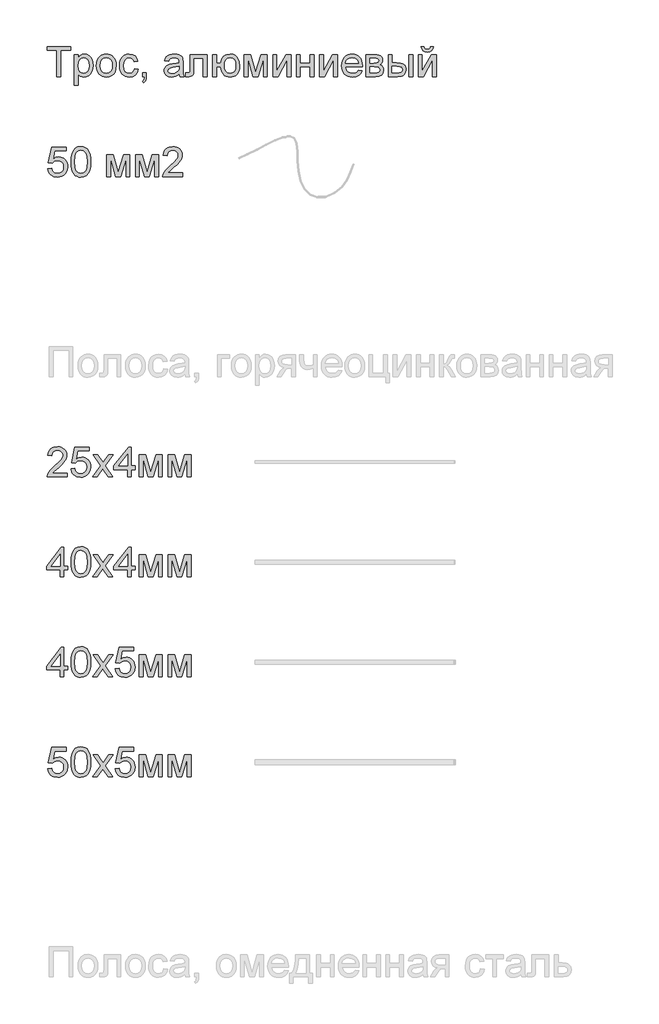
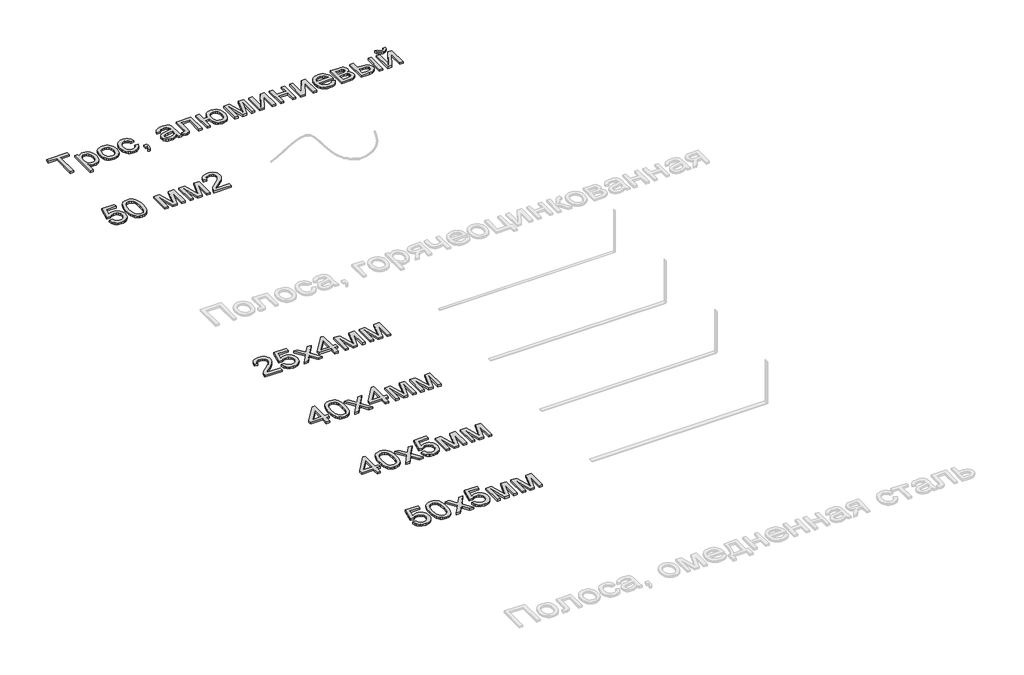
# One storey, part 86 of 124: 6 proxies.
"""IFC4 building model written with IfcOpenShell, lengths in millimetres."""

import ifcopenshell
import ifcopenshell.guid

model = None  # the IFC model being written
_history = None  # IfcOwnerHistory: only IFC2X3 demands one
_inside = {}  # id of a spatial element -> (the spatial element, [elements in it])
_under = {}  # id of a project, library or spatial element -> (it, [spatial elements below it])
_declared = {}  # id of a project -> (the project, [libraries it declares])
_typed = {}  # id of a type object -> (the type object, [elements of that type])
_made_of = {}  # id of a material, layer set ... -> (it, [elements and type objects made of it])


def new_model(schema):
    """Start an empty IFC model of exactly this schema.

    Asked for "IFC4X3", IfcOpenShell would pick the latest addendum, in which some entities
    have other attributes; the version numbers below select the first issue.
    IFC2X3 requires an IfcOwnerHistory on every rooted entity: one is made here for all.
    """
    global model, _history
    if schema == "IFC4X3":
        model = ifcopenshell.file(schema_version=(4, 3, 0, 0))
    else:
        model = ifcopenshell.file(schema=schema)
    _inside.clear()
    _under.clear()
    _declared.clear()
    _typed.clear()
    _made_of.clear()
    _history = None
    if model.schema == "IFC2X3":
        org = make("IfcOrganization", Name="unknown")
        user = make(
            "IfcPersonAndOrganization",
            ThePerson=make("IfcPerson", FamilyName="unknown"),
            TheOrganization=org,
        )
        app = make(
            "IfcApplication",
            ApplicationDeveloper=org,
            Version="unknown",
            ApplicationFullName="unknown",
            ApplicationIdentifier="unknown",
        )
        _history = make(
            "IfcOwnerHistory",
            OwningUser=user,
            OwningApplication=app,
            ChangeAction="ADDED",
            CreationDate=0,
        )
    return model


def make(cls, **values):
    """One entity of the class cls with the attributes given. An attribute that is None is left unset."""
    return model.create_entity(
        cls, **{name: value for name, value in values.items() if value is not None}
    )


def rooted(cls, **values):
    """An entity with a GlobalId (a new one), such as an element, a storey or a relation."""
    return make(cls, GlobalId=ifcopenshell.guid.new(), OwnerHistory=_history, **values)


def si_unit(unit_type, name, prefix=None):
    """IfcSIUnit, for example si_unit("LENGTHUNIT", "METRE", prefix="MILLI")."""
    return make("IfcSIUnit", UnitType=unit_type, Prefix=prefix, Name=name)


def assignment(units):
    """IfcUnitAssignment: the units of a project."""
    return None if units is None else make("IfcUnitAssignment", Units=units)


def point(xyz):
    """IfcCartesianPoint."""
    return None if xyz is None else make("IfcCartesianPoint", Coordinates=xyz)


def direction(xyz):
    """IfcDirection."""
    return None if xyz is None else make("IfcDirection", DirectionRatios=xyz)


def frame(location, z_axis=None, x_axis=None):
    """IfcAxis2Placement3D, a coordinate frame: its origin and axes. An axis left out is left unset."""
    return make(
        "IfcAxis2Placement3D",
        Location=point(location),
        Axis=direction(z_axis),
        RefDirection=direction(x_axis),
    )


def origin():
    """The frame at (0, 0, 0) with its axes left unset."""
    return frame((0.0, 0.0, 0.0))


def origin_with_axes():
    """The frame at (0, 0, 0) with the z axis (0, 0, 1) and the x axis (1, 0, 0) written out."""
    return frame((0.0, 0.0, 0.0), z_axis=(0.0, 0.0, 1.0), x_axis=(1.0, 0.0, 0.0))


def place(relative_to, where):
    """IfcLocalPlacement: puts the frame where relative to a parent placement (None: the world)."""
    return make(
        "IfcLocalPlacement", PlacementRelTo=relative_to, RelativePlacement=where
    )


def context(
    kind, dimensions, precision=None, world=None, true_north=None, identifier=None
):
    """IfcGeometricRepresentationContext, for example the 3D "Model" context."""
    return make(
        "IfcGeometricRepresentationContext",
        ContextIdentifier=identifier,
        ContextType=kind,
        CoordinateSpaceDimension=dimensions,
        Precision=precision,
        WorldCoordinateSystem=world,
        TrueNorth=true_north,
    )


def project(units=None, contexts=None):
    """IfcProject with its units and contexts."""
    return rooted(
        "IfcProject",
        Name="project",
        RepresentationContexts=contexts,
        UnitsInContext=assignment(units),
    )


def spatial(cls, under=None, at=None, **own):
    """A site, building, storey or space (cls), placed at a placement, below another one or the project."""
    s = rooted(cls, ObjectPlacement=at, **own)
    if under is not None:
        _under.setdefault(under.id(), (under, []))[1].append(s)
    return s


def polyline(points):
    """IfcPolyline through the points."""
    return make("IfcPolyline", Points=[point(p) for p in points])


def outline(outer, holes=None, kind="AREA"):
    """IfcArbitraryClosedProfileDef: a profile drawn as a closed curve; with holes, ...WithVoids."""
    if holes is None:
        return make("IfcArbitraryClosedProfileDef", ProfileType=kind, OuterCurve=outer)
    return make(
        "IfcArbitraryProfileDefWithVoids",
        ProfileType=kind,
        OuterCurve=outer,
        InnerCurves=holes,
    )


def extrude(swept, where, along, depth):
    """IfcExtrudedAreaSolid: the profile swept, set in the frame where, extruded along a direction by depth."""
    return make(
        "IfcExtrudedAreaSolid",
        SweptArea=swept,
        Position=where,
        ExtrudedDirection=direction(along),
        Depth=depth,
    )


def shape(context_of_items, identifier, shape_type, items):
    """IfcShapeRepresentation: the items that make up one representation, for example the "Body"."""
    return make(
        "IfcShapeRepresentation",
        ContextOfItems=context_of_items,
        RepresentationIdentifier=identifier,
        RepresentationType=shape_type,
        Items=items,
    )


def made_of(thing, what):
    """Note that an element or type object is made of a material, layer set ...; save() writes the relation."""
    if what is not None:
        _made_of.setdefault(what.id(), (what, []))[1].append(thing)
    return thing


def element(
    cls,
    number,
    at=None,
    inside=None,
    cuts=None,
    type_object=None,
    material=None,
    context=None,
    identifier="Body",
    shape_type=None,
    held_by="IfcProductDefinitionShape",
    body=None,
    shapes=None,
    **own,
):
    """One element of the class cls, such as IfcWall. Its Tag is "e" and its number.

    at: its placement. inside: the storey or other place that contains it. cuts: it is an
    opening in that element (IfcRelVoidsElement). A single representation is given by context,
    identifier, shape_type and body (its items); several are given by shapes. held_by: the class
    of the entity that holds the representations. save() writes the other relations.
    """
    e = rooted(cls, Tag="e%d" % number, ObjectPlacement=at, **own)
    if body is not None:
        shapes = [shape(context, identifier, shape_type, body)]
    if shapes is not None:
        e.Representation = make(held_by, Representations=shapes)
    if inside is not None:
        _inside.setdefault(inside.id(), (inside, []))[1].append(e)
    if cuts is not None:
        rooted(
            "IfcRelVoidsElement", RelatingBuildingElement=cuts, RelatedOpeningElement=e
        )
    if type_object is not None:
        _typed.setdefault(type_object.id(), (type_object, []))[1].append(e)
    return made_of(e, material)


def aggregate(whole, parts):
    """IfcRelAggregates: a whole, such as a stair, and the parts it consists of."""
    return rooted("IfcRelAggregates", RelatingObject=whole, RelatedObjects=parts)


def save(model, path):
    """Write the relations noted so far, then the file.

    IfcRelAggregates (storeys below a building ...), IfcRelContainedInSpatialStructure (elements
    in a storey), IfcRelDefinesByType, IfcRelAssociatesMaterial and IfcRelDeclares: one each for
    every whole, place, type object, material and project.
    """
    for whole, parts in _under.values():
        aggregate(whole, parts)
    for where, things in _inside.values():
        rooted(
            "IfcRelContainedInSpatialStructure",
            RelatedElements=things,
            RelatingStructure=where,
        )
    for kind, things in _typed.values():
        rooted("IfcRelDefinesByType", RelatedObjects=things, RelatingType=kind)
    for what, things in _made_of.values():
        rooted("IfcRelAssociatesMaterial", RelatedObjects=things, RelatingMaterial=what)
    for by, libraries in _declared.values():
        rooted("IfcRelDeclares", RelatingContext=by, RelatedDefinitions=libraries)
    model.write(path)


model = new_model("IFC4")

# Units and contexts
model_context = context("Model", 3, world=origin())
ifc_project = project(units=[si_unit("LENGTHUNIT", "METRE", prefix="MILLI")], contexts=[model_context])

# Site, building, storey
site = spatial("IfcSite", under=ifc_project)
building = spatial("IfcBuilding", under=site)
storey = spatial("IfcBuildingStorey", under=building, Name="Этаж 01", Elevation=0.0)

# Proxies
placement = place(None, origin())
element("IfcBuildingElementProxy", 1, Name="300", ObjectType="300", at=placement, inside=storey, context=model_context, shape_type="SweptSolid", body=[
    extrude(outline(polyline([(1478.7598701, -20181.842987), (1478.7598701, -20219.5141033), (1280.9865095, -20219.5141033), (1285.0332115, -20193.5416344), (1294.3222319, -20173.2437453), (1307.9154716, -20153.5528615), (1327.5787642, -20132.9422727), (1355.0779434, -20109.8852687), (1395.7289038, -20073.7776509), (1420.1194801, -20047.1246003), (1432.3147683, -20025.493139), (1436.3798643, -20004.4502889), (1432.5446945, -19985.5871396), (1421.0391851, -19969.9061695), (1403.3532582, -19959.3387592), (1380.9768358, -19955.8162891), (1357.4783734, -19959.2559858), (1339.2222294, -19969.5750757), (1327.4408085, -19985.9642186), (1323.3665154, -20007.614074), (1285.6953991, -20002.9051845), (1294.8280696, -19966.4664729), (1303.3744282, -19951.9305355), (1314.5741357, -19939.8502105), (1328.1696747, -19930.3542565), (1343.9035278, -19923.5714322), (1381.7861762, -19918.1451728), (1401.976, -19919.653489), (1419.9447362, -19924.1784375), (1435.6923848, -19931.7200184), (1449.2189459, -19942.2782317), (1460.0829611, -19955.0713281), (1467.8429719, -19969.3175583), (1472.4989784, -19985.0169225), (1474.0509806, -20002.1694205), (1472.3771175, -20020.1864412), (1467.3555283, -20037.8907622), (1458.443587, -20055.8985859), (1445.0986676, -20074.8261146), (1423.8258912, -20097.4232661), (1391.1303789, -20126.4399585), (1347.7938799, -20162.676335), (1330.7977317, -20181.842987), (1478.7598701, -20181.842987)])), origin_with_axes(), (0.0, 0.0, 1.0), 20.0),
    extrude(outline(polyline([(1516.4309865, -20139.4629811), (1554.1021028, -20134.7540916), (1561.0182843, -20157.3696372), (1573.0848137, -20173.5656421), (1590.2465088, -20183.3053179), (1612.4481872, -20186.5518765), (1639.4507256, -20182.036125), (1659.6842354, -20168.4888705), (1672.3209819, -20147.4736116), (1676.5332308, -20120.5538466), (1672.5876964, -20095.2067771), (1660.7510932, -20075.8193959), (1640.9314507, -20063.5137432), (1613.0367984, -20059.411859), (1594.7622603, -20061.0489338), (1579.964207, -20065.9601585), (1558.8109923, -20082.9563067), (1521.139876, -20078.2474171), (1554.1021028, -19922.8540624), (1700.0776784, -19922.8540624), (1700.0776784, -19960.5251787), (1584.562732, -19960.5251787), (1568.4495006, -20043.5193568), (1595.3600685, -20027.1853962), (1623.5582234, -20021.7407427), (1641.9040387, -20023.4284013), (1658.7553333, -20028.4913773), (1674.1121074, -20036.9296705), (1687.9743608, -20048.7432811), (1699.4499798, -20063.2102406), (1707.6468505, -20079.6085805), (1712.5649729, -20097.9383009), (1714.2043471, -20118.1994018), (1708.299841, -20155.8705181), (1700.9192085, -20172.6643312), (1690.586323, -20188.0969809), (1674.9329441, -20203.9021111), (1656.667603, -20215.1914898), (1635.7902998, -20221.9651171), (1612.3010344, -20224.2229928), (1575.3013027, -20218.4196543), (1559.622632, -20211.1654812), (1545.8247579, -20201.0096389), (1534.3445404, -20188.4579651), (1525.6188393, -20174.0162975), (1516.4309865, -20139.4629811)])), origin_with_axes(), (0.0, 0.0, 1.0), 20.0),
    extrude(outline(polyline([(1733.0399052, -20219.5141033), (1813.5324858, -20108.2665879), (1737.7487948, -19998.196295), (1783.0718566, -19998.196295), (1819.6393269, -20051.1713023), (1836.7090515, -20076.1872779), (1851.4979077, -20055.733039), (1893.1421495, -19998.196295), (1938.4652113, -19998.196295), (1858.8555476, -20108.2665879), (1935.5221554, -20219.5141033), (1890.1990936, -20219.5141033), (1844.0666914, -20152.6331565), (1835.6054055, -20140.4194743), (1778.362967, -20219.5141033), (1733.0399052, -20219.5141033)])), origin_with_axes(), (0.0, 0.0, 1.0), 20.0),
    extrude(outline(polyline([(2081.497731, -20219.5141033), (2081.497731, -20148.8807602), (1944.9399344, -20148.8807602), (1944.9399344, -20111.2096439), (2090.9155101, -19922.8540624), (2119.1688474, -19922.8540624), (2119.1688474, -20111.2096439), (2156.8399637, -20111.2096439), (2156.8399637, -20148.8807602), (2119.1688474, -20148.8807602), (2119.1688474, -20219.5141033), (2081.497731, -20219.5141033)]), holes=[polyline([(2081.497731, -20111.2096439), (2081.497731, -19994.8117806), (1991.2930658, -20111.2096439), (2081.497731, -20111.2096439)])]), origin_with_axes(), (0.0, 0.0, 1.0), 20.0),
    extrude(outline(polyline([(2199.2199695, -19998.196295), (2264.0407771, -19998.196295), (2313.999152, -20175.3682638), (2367.8570761, -19998.196295), (2429.9555569, -19998.196295), (2429.9555569, -20219.5141033), (2392.2844406, -20219.5141033), (2392.2844406, -20041.3120648), (2338.1322109, -20219.5141033), (2288.6888707, -20219.5141033), (2236.8910858, -20032.7772025), (2236.8910858, -20219.5141033), (2199.2199695, -20219.5141033), (2199.2199695, -19998.196295)])), origin_with_axes(), (0.0, 0.0, 1.0), 20.0),
    extrude(outline(polyline([(2486.4622313, -19998.196295), (2551.2830389, -19998.196295), (2601.2414138, -20175.3682638), (2655.0993379, -19998.196295), (2717.1978187, -19998.196295), (2717.1978187, -20219.5141033), (2679.5267024, -20219.5141033), (2679.5267024, -20041.3120648), (2625.3744727, -20219.5141033), (2575.9311326, -20219.5141033), (2524.1333476, -20032.7772025), (2524.1333476, -20219.5141033), (2486.4622313, -20219.5141033), (2486.4622313, -19998.196295)])), origin_with_axes(), (0.0, 0.0, 1.0), 20.0),
])
element("IfcBuildingElementProxy", 2, Name="300", ObjectType="300", at=placement, inside=storey, context=model_context, shape_type="SweptSolid", body=[
    extrude(outline(polyline([(1408.1265271, -21219.5141033), (1408.1265271, -21148.8807602), (1271.5687305, -21148.8807602), (1271.5687305, -21111.2096439), (1417.5443062, -20922.8540624), (1445.7976434, -20922.8540624), (1445.7976434, -21111.2096439), (1483.4687597, -21111.2096439), (1483.4687597, -21148.8807602), (1445.7976434, -21148.8807602), (1445.7976434, -21219.5141033), (1408.1265271, -21219.5141033)]), holes=[polyline([(1408.1265271, -21111.2096439), (1408.1265271, -20994.8117806), (1317.9218619, -21111.2096439), (1408.1265271, -21111.2096439)])]), origin_with_axes(), (0.0, 0.0, 1.0), 20.0),
    extrude(outline(polyline([(1516.4309865, -21071.2576592), (1519.1992985, -21023.0191326), (1527.5042345, -20984.5478729), (1541.2630211, -20955.2552691), (1560.3928849, -20934.5527098), (1585.0317815, -20922.2470571), (1615.3176668, -20918.1451728), (1638.5310207, -20920.573194), (1659.3163534, -20927.8572575), (1676.6987777, -20939.7122548), (1689.7034062, -20955.8530773), (1699.5258555, -20976.1417694), (1707.361742, -21000.4403751), (1712.4936958, -21031.2964775), (1714.2043471, -21071.2576592), (1711.4636262, -21119.2202743), (1703.2414636, -21157.5995635), (1689.5654504, -21186.9197585), (1670.4631778, -21207.7050912), (1645.7690989, -21220.0935174), (1615.3176668, -21224.2229928), (1594.5691222, -21222.4295681), (1576.1750225, -21217.0492939), (1560.1353675, -21208.0821703), (1546.4501573, -21195.5281972), (1533.31677, -21172.8344766), (1523.9357792, -21144.5581467), (1518.3071846, -21110.6992076), (1516.4309865, -21071.2576592)]), holes=[polyline([(1554.1021028, -21071.1840828), (1558.5166867, -21130.4406752), (1564.0349166, -21150.7086739), (1571.7604385, -21164.7364742), (1591.4789135, -21181.0980259), (1615.3176668, -21186.5518765), (1639.15642, -21181.0796318), (1658.874895, -21164.6628978), (1666.6004169, -21150.6121048), (1672.1186468, -21130.3487047), (1676.5332308, -21071.1840828), (1672.2657996, -21013.2610627), (1666.9315107, -20993.0597426), (1659.4635062, -20978.6985492), (1639.7818194, -20961.5368541), (1614.8762084, -20955.8162891), (1591.2949725, -20960.8562725), (1572.3490497, -20975.9762225), (1564.3660104, -20991.6112072), (1558.6638395, -21012.6908456), (1554.1021028, -21071.1840828)])]), origin_with_axes(), (0.0, 0.0, 1.0), 20.0),
    extrude(outline(polyline([(1733.0399052, -21219.5141033), (1813.5324858, -21108.2665879), (1737.7487948, -20998.196295), (1783.0718566, -20998.196295), (1819.6393269, -21051.1713023), (1836.7090515, -21076.1872779), (1851.4979077, -21055.733039), (1893.1421495, -20998.196295), (1938.4652113, -20998.196295), (1858.8555476, -21108.2665879), (1935.5221554, -21219.5141033), (1890.1990936, -21219.5141033), (1844.0666914, -21152.6331565), (1835.6054055, -21140.4194743), (1778.362967, -21219.5141033), (1733.0399052, -21219.5141033)])), origin_with_axes(), (0.0, 0.0, 1.0), 20.0),
    extrude(outline(polyline([(2081.497731, -21219.5141033), (2081.497731, -21148.8807602), (1944.9399344, -21148.8807602), (1944.9399344, -21111.2096439), (2090.9155101, -20922.8540624), (2119.1688474, -20922.8540624), (2119.1688474, -21111.2096439), (2156.8399637, -21111.2096439), (2156.8399637, -21148.8807602), (2119.1688474, -21148.8807602), (2119.1688474, -21219.5141033), (2081.497731, -21219.5141033)]), holes=[polyline([(2081.497731, -21111.2096439), (2081.497731, -20994.8117806), (1991.2930658, -21111.2096439), (2081.497731, -21111.2096439)])]), origin_with_axes(), (0.0, 0.0, 1.0), 20.0),
    extrude(outline(polyline([(2199.2199695, -20998.196295), (2264.0407771, -20998.196295), (2313.999152, -21175.3682638), (2367.8570761, -20998.196295), (2429.9555569, -20998.196295), (2429.9555569, -21219.5141033), (2392.2844406, -21219.5141033), (2392.2844406, -21041.3120648), (2338.1322109, -21219.5141033), (2288.6888707, -21219.5141033), (2236.8910858, -21032.7772025), (2236.8910858, -21219.5141033), (2199.2199695, -21219.5141033), (2199.2199695, -20998.196295)])), origin_with_axes(), (0.0, 0.0, 1.0), 20.0),
    extrude(outline(polyline([(2486.4622313, -20998.196295), (2551.2830389, -20998.196295), (2601.2414138, -21175.3682638), (2655.0993379, -20998.196295), (2717.1978187, -20998.196295), (2717.1978187, -21219.5141033), (2679.5267024, -21219.5141033), (2679.5267024, -21041.3120648), (2625.3744727, -21219.5141033), (2575.9311326, -21219.5141033), (2524.1333476, -21032.7772025), (2524.1333476, -21219.5141033), (2486.4622313, -21219.5141033), (2486.4622313, -20998.196295)])), origin_with_axes(), (0.0, 0.0, 1.0), 20.0),
])
element("IfcBuildingElementProxy", 3, Name="300", ObjectType="300", at=placement, inside=storey, context=model_context, shape_type="SweptSolid", body=[
    extrude(outline(polyline([(1408.1265271, -22219.5141033), (1408.1265271, -22148.8807602), (1271.5687305, -22148.8807602), (1271.5687305, -22111.2096439), (1417.5443062, -21922.8540624), (1445.7976434, -21922.8540624), (1445.7976434, -22111.2096439), (1483.4687597, -22111.2096439), (1483.4687597, -22148.8807602), (1445.7976434, -22148.8807602), (1445.7976434, -22219.5141033), (1408.1265271, -22219.5141033)]), holes=[polyline([(1408.1265271, -22111.2096439), (1408.1265271, -21994.8117806), (1317.9218619, -22111.2096439), (1408.1265271, -22111.2096439)])]), origin_with_axes(), (0.0, 0.0, 1.0), 20.0),
    extrude(outline(polyline([(1516.4309865, -22071.2576592), (1519.1992985, -22023.0191326), (1527.5042345, -21984.5478729), (1541.2630211, -21955.2552691), (1560.3928849, -21934.5527098), (1585.0317815, -21922.2470571), (1615.3176668, -21918.1451728), (1638.5310207, -21920.573194), (1659.3163534, -21927.8572575), (1676.6987777, -21939.7122548), (1689.7034062, -21955.8530773), (1699.5258555, -21976.1417694), (1707.361742, -22000.4403751), (1712.4936958, -22031.2964775), (1714.2043471, -22071.2576592), (1711.4636262, -22119.2202743), (1703.2414636, -22157.5995635), (1689.5654504, -22186.9197585), (1670.4631778, -22207.7050912), (1645.7690989, -22220.0935174), (1615.3176668, -22224.2229928), (1594.5691222, -22222.4295681), (1576.1750225, -22217.0492939), (1560.1353675, -22208.0821703), (1546.4501573, -22195.5281972), (1533.31677, -22172.8344766), (1523.9357792, -22144.5581467), (1518.3071846, -22110.6992076), (1516.4309865, -22071.2576592)]), holes=[polyline([(1554.1021028, -22071.1840828), (1558.5166867, -22130.4406752), (1564.0349166, -22150.7086739), (1571.7604385, -22164.7364742), (1591.4789135, -22181.0980259), (1615.3176668, -22186.5518765), (1639.15642, -22181.0796318), (1658.874895, -22164.6628978), (1666.6004169, -22150.6121048), (1672.1186468, -22130.3487047), (1676.5332308, -22071.1840828), (1672.2657996, -22013.2610627), (1666.9315107, -21993.0597426), (1659.4635062, -21978.6985492), (1639.7818194, -21961.5368541), (1614.8762084, -21955.8162891), (1591.2949725, -21960.8562725), (1572.3490497, -21975.9762225), (1564.3660104, -21991.6112072), (1558.6638395, -22012.6908456), (1554.1021028, -22071.1840828)])]), origin_with_axes(), (0.0, 0.0, 1.0), 20.0),
    extrude(outline(polyline([(1733.0399052, -22219.5141033), (1813.5324858, -22108.2665879), (1737.7487948, -21998.196295), (1783.0718566, -21998.196295), (1819.6393269, -22051.1713023), (1836.7090515, -22076.1872779), (1851.4979077, -22055.733039), (1893.1421495, -21998.196295), (1938.4652113, -21998.196295), (1858.8555476, -22108.2665879), (1935.5221554, -22219.5141033), (1890.1990936, -22219.5141033), (1844.0666914, -22152.6331565), (1835.6054055, -22140.4194743), (1778.362967, -22219.5141033), (1733.0399052, -22219.5141033)])), origin_with_axes(), (0.0, 0.0, 1.0), 20.0),
    extrude(outline(polyline([(1959.0666031, -22139.4629811), (1996.7377194, -22134.7540916), (2003.6539009, -22157.3696372), (2015.7204303, -22173.5656421), (2032.8821254, -22183.3053179), (2055.0838038, -22186.5518765), (2082.0863422, -22182.036125), (2102.319852, -22168.4888705), (2114.9565985, -22147.4736116), (2119.1688474, -22120.5538466), (2115.223313, -22095.2067771), (2103.3867098, -22075.8193959), (2083.5670673, -22063.5137432), (2055.672415, -22059.411859), (2037.3978769, -22061.0489338), (2022.5998236, -22065.9601585), (2001.4466089, -22082.9563067), (1963.7754926, -22078.2474171), (1996.7377194, -21922.8540624), (2142.713295, -21922.8540624), (2142.713295, -21960.5251787), (2027.1983486, -21960.5251787), (2011.0851172, -22043.5193568), (2037.9956851, -22027.1853962), (2066.19384, -22021.7407427), (2084.5396553, -22023.4284013), (2101.3909499, -22028.4913773), (2116.747724, -22036.9296705), (2130.6099774, -22048.7432811), (2142.0855964, -22063.2102406), (2150.2824671, -22079.6085805), (2155.2005895, -22097.9383009), (2156.8399637, -22118.1994018), (2150.9354576, -22155.8705181), (2143.5548251, -22172.6643312), (2133.2219396, -22188.0969809), (2117.5685607, -22203.9021111), (2099.3032196, -22215.1914898), (2078.4259164, -22221.9651171), (2054.936651, -22224.2229928), (2017.9369193, -22218.4196543), (2002.2582485, -22211.1654812), (1988.4603745, -22201.0096389), (1976.980157, -22188.4579651), (1968.2544559, -22174.0162975), (1959.0666031, -22139.4629811)])), origin_with_axes(), (0.0, 0.0, 1.0), 20.0),
    extrude(outline(polyline([(2199.2199695, -21998.196295), (2264.0407771, -21998.196295), (2313.999152, -22175.3682638), (2367.8570761, -21998.196295), (2429.9555569, -21998.196295), (2429.9555569, -22219.5141033), (2392.2844406, -22219.5141033), (2392.2844406, -22041.3120648), (2338.1322109, -22219.5141033), (2288.6888707, -22219.5141033), (2236.8910858, -22032.7772025), (2236.8910858, -22219.5141033), (2199.2199695, -22219.5141033), (2199.2199695, -21998.196295)])), origin_with_axes(), (0.0, 0.0, 1.0), 20.0),
    extrude(outline(polyline([(2486.4622313, -21998.196295), (2551.2830389, -21998.196295), (2601.2414138, -22175.3682638), (2655.0993379, -21998.196295), (2717.1978187, -21998.196295), (2717.1978187, -22219.5141033), (2679.5267024, -22219.5141033), (2679.5267024, -22041.3120648), (2625.3744727, -22219.5141033), (2575.9311326, -22219.5141033), (2524.1333476, -22032.7772025), (2524.1333476, -22219.5141033), (2486.4622313, -22219.5141033), (2486.4622313, -21998.196295)])), origin_with_axes(), (0.0, 0.0, 1.0), 20.0),
])
element("IfcBuildingElementProxy", 4, Name="300", ObjectType="300", at=placement, inside=storey, context=model_context, shape_type="SweptSolid", body=[
    extrude(outline(polyline([(1285.6953991, -23139.4629811), (1323.3665154, -23134.7540916), (1330.2826969, -23157.3696372), (1342.3492263, -23173.5656421), (1359.5109214, -23183.3053179), (1381.7125998, -23186.5518765), (1408.7151383, -23182.036125), (1428.948648, -23168.4888705), (1441.5853945, -23147.4736116), (1445.7976434, -23120.5538466), (1441.852109, -23095.2067771), (1430.0155058, -23075.8193959), (1410.1958633, -23063.5137432), (1382.301211, -23059.411859), (1364.0266729, -23061.0489338), (1349.2286196, -23065.9601585), (1328.0754049, -23082.9563067), (1290.4042886, -23078.2474171), (1323.3665154, -22922.8540624), (1469.3420911, -22922.8540624), (1469.3420911, -22960.5251787), (1353.8271446, -22960.5251787), (1337.7139132, -23043.5193568), (1364.6244811, -23027.1853962), (1392.8226361, -23021.7407427), (1411.1684513, -23023.4284013), (1428.019746, -23028.4913773), (1443.37652, -23036.9296705), (1457.2387734, -23048.7432811), (1468.7143924, -23063.2102406), (1476.9112631, -23079.6085805), (1481.8293855, -23097.9383009), (1483.4687597, -23118.1994018), (1477.5642537, -23155.8705181), (1470.1836211, -23172.6643312), (1459.8507356, -23188.0969809), (1444.1973567, -23203.9021111), (1425.9320156, -23215.1914898), (1405.0547124, -23221.9651171), (1381.565447, -23224.2229928), (1344.5657154, -23218.4196543), (1328.8870446, -23211.1654812), (1315.0891705, -23201.0096389), (1303.608953, -23188.4579651), (1294.8832519, -23174.0162975), (1285.6953991, -23139.4629811)])), origin_with_axes(), (0.0, 0.0, 1.0), 20.0),
    extrude(outline(polyline([(1516.4309865, -23071.2576592), (1519.1992985, -23023.0191326), (1527.5042345, -22984.5478729), (1541.2630211, -22955.2552691), (1560.3928849, -22934.5527098), (1585.0317815, -22922.2470571), (1615.3176668, -22918.1451728), (1638.5310207, -22920.573194), (1659.3163534, -22927.8572575), (1676.6987777, -22939.7122548), (1689.7034062, -22955.8530773), (1699.5258555, -22976.1417694), (1707.361742, -23000.4403751), (1712.4936958, -23031.2964775), (1714.2043471, -23071.2576592), (1711.4636262, -23119.2202743), (1703.2414636, -23157.5995635), (1689.5654504, -23186.9197585), (1670.4631778, -23207.7050912), (1645.7690989, -23220.0935174), (1615.3176668, -23224.2229928), (1594.5691222, -23222.4295681), (1576.1750225, -23217.0492939), (1560.1353675, -23208.0821703), (1546.4501573, -23195.5281972), (1533.31677, -23172.8344766), (1523.9357792, -23144.5581467), (1518.3071846, -23110.6992076), (1516.4309865, -23071.2576592)]), holes=[polyline([(1554.1021028, -23071.1840828), (1558.5166867, -23130.4406752), (1564.0349166, -23150.7086739), (1571.7604385, -23164.7364742), (1591.4789135, -23181.0980259), (1615.3176668, -23186.5518765), (1639.15642, -23181.0796318), (1658.874895, -23164.6628978), (1666.6004169, -23150.6121048), (1672.1186468, -23130.3487047), (1676.5332308, -23071.1840828), (1672.2657996, -23013.2610627), (1666.9315107, -22993.0597426), (1659.4635062, -22978.6985492), (1639.7818194, -22961.5368541), (1614.8762084, -22955.8162891), (1591.2949725, -22960.8562725), (1572.3490497, -22975.9762225), (1564.3660104, -22991.6112072), (1558.6638395, -23012.6908456), (1554.1021028, -23071.1840828)])]), origin_with_axes(), (0.0, 0.0, 1.0), 20.0),
    extrude(outline(polyline([(1733.0399052, -23219.5141033), (1813.5324858, -23108.2665879), (1737.7487948, -22998.196295), (1783.0718566, -22998.196295), (1819.6393269, -23051.1713023), (1836.7090515, -23076.1872779), (1851.4979077, -23055.733039), (1893.1421495, -22998.196295), (1938.4652113, -22998.196295), (1858.8555476, -23108.2665879), (1935.5221554, -23219.5141033), (1890.1990936, -23219.5141033), (1844.0666914, -23152.6331565), (1835.6054055, -23140.4194743), (1778.362967, -23219.5141033), (1733.0399052, -23219.5141033)])), origin_with_axes(), (0.0, 0.0, 1.0), 20.0),
    extrude(outline(polyline([(1959.0666031, -23139.4629811), (1996.7377194, -23134.7540916), (2003.6539009, -23157.3696372), (2015.7204303, -23173.5656421), (2032.8821254, -23183.3053179), (2055.0838038, -23186.5518765), (2082.0863422, -23182.036125), (2102.319852, -23168.4888705), (2114.9565985, -23147.4736116), (2119.1688474, -23120.5538466), (2115.223313, -23095.2067771), (2103.3867098, -23075.8193959), (2083.5670673, -23063.5137432), (2055.672415, -23059.411859), (2037.3978769, -23061.0489338), (2022.5998236, -23065.9601585), (2001.4466089, -23082.9563067), (1963.7754926, -23078.2474171), (1996.7377194, -22922.8540624), (2142.713295, -22922.8540624), (2142.713295, -22960.5251787), (2027.1983486, -22960.5251787), (2011.0851172, -23043.5193568), (2037.9956851, -23027.1853962), (2066.19384, -23021.7407427), (2084.5396553, -23023.4284013), (2101.3909499, -23028.4913773), (2116.747724, -23036.9296705), (2130.6099774, -23048.7432811), (2142.0855964, -23063.2102406), (2150.2824671, -23079.6085805), (2155.2005895, -23097.9383009), (2156.8399637, -23118.1994018), (2150.9354576, -23155.8705181), (2143.5548251, -23172.6643312), (2133.2219396, -23188.0969809), (2117.5685607, -23203.9021111), (2099.3032196, -23215.1914898), (2078.4259164, -23221.9651171), (2054.936651, -23224.2229928), (2017.9369193, -23218.4196543), (2002.2582485, -23211.1654812), (1988.4603745, -23201.0096389), (1976.980157, -23188.4579651), (1968.2544559, -23174.0162975), (1959.0666031, -23139.4629811)])), origin_with_axes(), (0.0, 0.0, 1.0), 20.0),
    extrude(outline(polyline([(2199.2199695, -22998.196295), (2264.0407771, -22998.196295), (2313.999152, -23175.3682638), (2367.8570761, -22998.196295), (2429.9555569, -22998.196295), (2429.9555569, -23219.5141033), (2392.2844406, -23219.5141033), (2392.2844406, -23041.3120648), (2338.1322109, -23219.5141033), (2288.6888707, -23219.5141033), (2236.8910858, -23032.7772025), (2236.8910858, -23219.5141033), (2199.2199695, -23219.5141033), (2199.2199695, -22998.196295)])), origin_with_axes(), (0.0, 0.0, 1.0), 20.0),
    extrude(outline(polyline([(2486.4622313, -22998.196295), (2551.2830389, -22998.196295), (2601.2414138, -23175.3682638), (2655.0993379, -22998.196295), (2717.1978187, -22998.196295), (2717.1978187, -23219.5141033), (2679.5267024, -23219.5141033), (2679.5267024, -23041.3120648), (2625.3744727, -23219.5141033), (2575.9311326, -23219.5141033), (2524.1333476, -23032.7772025), (2524.1333476, -23219.5141033), (2486.4622313, -23219.5141033), (2486.4622313, -22998.196295)])), origin_with_axes(), (0.0, 0.0, 1.0), 20.0),
])
element("IfcBuildingElementProxy", 5, Name="300", ObjectType="300", at=placement, inside=storey, context=model_context, shape_type="SweptSolid", body=[
    extrude(outline(polyline([(1375.1643003, -16219.5141033), (1375.1643003, -15955.8162891), (1276.27762, -15955.8162891), (1276.27762, -15918.1451728), (1511.7220969, -15918.1451728), (1511.7220969, -15955.8162891), (1412.8354166, -15955.8162891), (1412.8354166, -16219.5141033), (1375.1643003, -16219.5141033)])), origin_with_axes(), (0.0, 0.0, 1.0), 20.0),
    extrude(outline(polyline([(1549.3932132, -16304.2741149), (1549.3932132, -15998.196295), (1587.0643295, -15998.196295), (1587.0643295, -16035.1316473), (1599.3515882, -16016.9122915), (1613.1103748, -16003.8984659), (1629.1500298, -15996.0901705), (1648.2798935, -15993.4874054), (1673.7557217, -15997.1294372), (1696.0309765, -16008.0555324), (1714.1675589, -16025.6035036), (1727.2273697, -16049.1111631), (1735.1184385, -16076.8678596), (1737.7487948, -16107.1629419), (1734.7781476, -16139.3802077), (1725.8662063, -16168.1945649), (1711.2980793, -16192.1436828), (1691.3588752, -16209.7652304), (1668.1363242, -16220.6085522), (1643.7181568, -16224.2229928), (1626.4001119, -16221.8041687), (1610.939871, -16214.5476963), (1597.7053162, -16203.5940099), (1587.0643295, -16190.0835436), (1587.0643295, -16304.2741149), (1549.3932132, -16304.2741149)]), holes=[polyline([(1587.0643295, -16110.6210327), (1591.1386226, -16144.3925998), (1603.3615019, -16168.0106239), (1621.3969167, -16181.9165634), (1642.9088164, -16186.5518765), (1664.770204, -16181.7510165), (1683.2654713, -16167.3484363), (1695.8746267, -16142.8658896), (1700.0776784, -16107.8251295), (1695.9757942, -16074.2375034), (1683.6701415, -16050.2883855), (1665.6623178, -16035.9409877), (1644.4539208, -16031.1585217), (1623.1627503, -16036.2444903), (1604.4651479, -16051.5023961), (1591.4145341, -16076.4539924), (1587.0643295, -16110.6210327)])]), origin_with_axes(), (0.0, 0.0, 1.0), 20.0),
    extrude(outline(polyline([(1770.7110215, -16108.8551991), (1772.7481681, -16080.1925932), (1778.8596077, -16055.4939157), (1789.0453405, -16034.7591668), (1803.3053663, -16017.9883463), (1817.6619612, -16007.2691847), (1833.5084781, -15999.6126406), (1850.8449171, -15995.0187142), (1869.6712782, -15993.4874054), (1890.4543117, -15995.3521073), (1909.2461839, -16000.9462129), (1926.0468947, -16010.2697222), (1940.8564443, -16023.3226352), (1952.9436671, -16039.6634936), (1961.5773977, -16058.8508389), (1966.757636, -16080.8846712), (1968.4843821, -16105.7649904), (1965.4309616, -16143.8223828), (1956.2706999, -16172.7930899), (1941.2703115, -16194.4889305), (1920.696511, -16210.7217236), (1896.2599494, -16220.8476755), (1869.6712782, -16224.2229928), (1848.5847421, -16222.3651887), (1829.618126, -16216.7917765), (1812.7714299, -16207.5027561), (1798.0446538, -16194.4981276), (1786.0861897, -16177.9986201), (1777.5444296, -16158.2249629), (1772.4193735, -16135.1771559), (1770.7110215, -16108.8551991)]), holes=[polyline([(1808.3821378, -16108.7816227), (1812.7415395, -16142.8750866), (1825.8197444, -16167.1644953), (1845.5014311, -16181.7050312), (1869.6712782, -16186.5518765), (1893.7307607, -16181.6774401), (1913.3756592, -16167.0541307), (1926.4538642, -16142.4428253), (1930.8132658, -16107.6044003), (1926.426273, -16074.5042178), (1913.2652947, -16050.5459029), (1893.592805, -16036.005367), (1869.6712782, -16031.1585217), (1845.5014311, -16035.9869729), (1825.8197444, -16050.4723265), (1812.7415395, -16074.7065529), (1808.3821378, -16108.7816227)])]), origin_with_axes(), (0.0, 0.0, 1.0), 20.0),
    extrude(outline(polyline([(2152.1310741, -16139.4629811), (2189.8021904, -16144.1718706), (2179.2991595, -16177.6767234), (2159.5622904, -16202.9962017), (2132.4493874, -16218.916295), (2099.8182544, -16224.2229928), (2078.6903316, -16222.3720865), (2059.7467081, -16216.8193676), (2042.9873839, -16207.5648362), (2028.4123591, -16194.6084922), (2016.6148434, -16178.1940574), (2008.1880465, -16158.5652537), (2003.1319683, -16135.7220811), (2001.4466089, -16109.6645395), (2004.3252855, -16076.1412927), (2012.9613153, -16047.0878121), (2027.4926542, -16023.6261379), (2048.0572577, -16006.87831), (2072.6593661, -15996.8351316), (2099.3032196, -15993.4874054), (2131.1342092, -15998.0859304), (2156.5824463, -16011.8815052), (2174.8385903, -16034.1383659), (2185.0933009, -16064.1207485), (2147.4221846, -16068.829638), (2140.5887765, -16052.3945099), (2129.9477898, -16040.613089), (2116.0878356, -16033.5221635), (2099.5975252, -16031.1585217), (2075.2529342, -16035.812229), (2055.9299324, -16049.7733507), (2043.320777, -16073.796045), (2039.1177252, -16108.6344699), (2043.2288065, -16143.9419444), (2055.5620504, -16168.0474121), (2074.5355643, -16181.9257604), (2098.5674556, -16186.5518765), (2118.0743984, -16183.6640028), (2134.0680682, -16175.0003818), (2145.7023363, -16160.3402843), (2152.1310741, -16139.4629811)])), origin_with_axes(), (0.0, 0.0, 1.0), 20.0),
    extrude(outline(polyline([(2232.1821963, -16219.5141033), (2232.1821963, -16181.842987), (2269.8533126, -16181.842987), (2269.8533126, -16219.5141033), (2268.1610554, -16241.0627911), (2263.0842839, -16258.0313482), (2254.3286924, -16271.0451737), (2241.5999753, -16280.7296673), (2232.1821963, -16266.6029986), (2240.3491766, -16259.7787876), (2246.0145593, -16250.3426145), (2250.944178, -16219.5141033), (2232.1821963, -16219.5141033)])), origin_with_axes(), (0.0, 0.0, 1.0), 20.0),
    extrude(outline(polyline([(2599.4755803, -16191.260766), (2581.4769536, -16206.6934157), (2562.9448981, -16216.7917765), (2543.4563494, -16222.3651887), (2522.5882433, -16224.2229928), (2491.1067415, -16219.7532266), (2467.8841906, -16206.3439278), (2453.5643839, -16185.9816594), (2448.791115, -16160.652984), (2450.5937368, -16145.0363933), (2456.0016021, -16130.8545424), (2464.3433264, -16118.7144366), (2474.9475249, -16109.2230811), (2501.3246639, -16096.8622461), (2533.9190087, -16091.1968633), (2572.4362536, -16085.237175), (2599.2548511, -16078.2474171), (2599.4755803, -16069.8597076), (2596.8820122, -16053.0475004), (2589.101308, -16042.0478288), (2571.7004896, -16033.8808485), (2547.4570661, -16031.1585217), (2525.0162644, -16032.9703406), (2509.3444914, -16038.405797), (2498.6575195, -16048.4581726), (2491.1711209, -16064.1207485), (2453.5000046, -16059.411859), (2460.039107, -16038.8104672), (2469.797177, -16022.6236594), (2483.6847223, -16010.2444303), (2502.6122509, -16001.0657745), (2525.7612255, -15995.3819977), (2552.3131085, -15993.4874054), (2577.7797396, -15995.1612685), (2597.9672641, -16000.1828577), (2613.1883816, -16007.7336357), (2623.7557919, -16016.9950649), (2630.7639439, -16028.445392), (2635.3072866, -16042.5628636), (2637.1466966, -16075.5250903), (2637.1466966, -16122.3932565), (2639.0596829, -16187.8394635), (2646.5644756, -16219.5141033), (2608.8933593, -16219.5141033), (2599.4755803, -16191.260766)]), holes=[polyline([(2599.4755803, -16115.9185334), (2538.7014747, -16127.4700281), (2506.2910709, -16133.5768692), (2491.6125793, -16143.5096831), (2486.4622313, -16158.0042337), (2489.2673315, -16169.2062404), (2497.6826322, -16178.3848962), (2511.5241923, -16184.5101314), (2530.6080708, -16186.5518765), (2550.8415805, -16184.2985993), (2568.7206455, -16177.5387676), (2583.2151961, -16167.5783626), (2593.2951627, -16155.7233653), (2597.764929, -16143.5096831), (2599.2548511, -16126.5871113), (2599.4755803, -16115.9185334)])]), origin_with_axes(), (0.0, 0.0, 1.0), 20.0),
    extrude(outline(polyline([(2707.7800396, -15998.196295), (2877.300063, -15998.196295), (2877.300063, -16219.2933741), (2839.6289467, -16219.2933741), (2839.6289467, -16035.8674113), (2745.4511559, -16035.8674113), (2745.4511559, -16141.4495439), (2742.9127702, -16190.15712), (2738.1578954, -16201.1843829), (2728.9700426, -16210.7217236), (2715.0273149, -16217.3160083), (2696.0078158, -16219.5141033), (2665.4000338, -16217.6011169), (2665.4000338, -16181.842987), (2682.2490292, -16181.842987), (2699.2819655, -16179.5253304), (2706.0877825, -16172.1676905), (2707.7800396, -16139.3158283), (2707.7800396, -15998.196295)])), origin_with_axes(), (0.0, 0.0, 1.0), 20.0),
    extrude(outline(polyline([(2933.8067375, -15998.196295), (2971.4778538, -15998.196295), (2971.4778538, -16082.9563067), (3013.8578596, -16082.9563067), (3023.6343236, -16044.5494264), (3032.1576896, -16029.2087472), (3043.1044782, -16016.4432419), (3056.1665883, -16006.4000635), (3071.0359187, -15999.2263645), (3106.1962404, -15993.4874054), (3135.7463617, -15996.8627227), (3158.3251191, -16006.9886746), (3175.7443316, -16023.0375267), (3189.8158179, -16044.1815444), (3199.1140353, -16071.9934232), (3202.2134412, -16108.0458587), (3200.6108552, -16134.9012444), (3195.8030974, -16158.2985393), (3187.7901677, -16178.2377434), (3176.5720661, -16194.7188568), (3162.6086451, -16207.6269163), (3146.3597572, -16216.8469588), (3127.8254025, -16222.3789843), (3107.0055808, -16224.2229928), (3087.6021048, -16222.4939474), (3070.2265783, -16217.3068113), (3054.8790013, -16208.6615844), (3041.5593739, -16196.5582668), (3030.5987897, -16181.4383168), (3022.3283426, -16163.7431928), (3013.8578596, -16120.627423), (2971.4778538, -16120.627423), (2971.4778538, -16219.5141033), (2933.8067375, -16219.5141033), (2933.8067375, -15998.196295)]), holes=[polyline([(3108.6242616, -16031.1585217), (3084.6107643, -16036.0329582), (3066.5753495, -16050.6562675), (3055.2905693, -16074.0719565), (3051.5289759, -16105.323532), (3055.3181605, -16141.7346524), (3066.6857141, -16166.9437661), (3084.3992322, -16181.6498489), (3107.22631, -16186.5518765), (3130.1177671, -16182.0177309), (3148.4658817, -16168.4152941), (3160.523214, -16144.7144966), (3164.5423248, -16109.8852687), (3161.06584, -16075.4423169), (3150.6363854, -16050.8402085), (3133.1803848, -16036.0789434), (3108.6242616, -16031.1585217)])]), origin_with_axes(), (0.0, 0.0, 1.0), 20.0),
    extrude(outline(polyline([(3249.3023365, -15998.196295), (3314.1231441, -15998.196295), (3364.081519, -16175.3682638), (3417.9394431, -15998.196295), (3480.0379239, -15998.196295), (3480.0379239, -16219.5141033), (3442.3668076, -16219.5141033), (3442.3668076, -16041.3120648), (3388.2145779, -16219.5141033), (3338.7712378, -16219.5141033), (3286.9734528, -16032.7772025), (3286.9734528, -16219.5141033), (3249.3023365, -16219.5141033), (3249.3023365, -15998.196295)])), origin_with_axes(), (0.0, 0.0, 1.0), 20.0),
    extrude(outline(polyline([(3536.5445984, -15998.196295), (3574.2157147, -15998.196295), (3574.2157147, -16166.9805543), (3666.7748247, -15998.196295), (3715.4824008, -15998.196295), (3715.4824008, -16219.5141033), (3677.8112845, -16219.5141033), (3677.8112845, -16051.7599135), (3585.8407857, -16219.5141033), (3536.5445984, -16219.5141033), (3536.5445984, -15998.196295)])), origin_with_axes(), (0.0, 0.0, 1.0), 20.0),
    extrude(outline(polyline([(3771.9890753, -15998.196295), (3809.6601916, -15998.196295), (3809.6601916, -16082.9563067), (3908.5468719, -16082.9563067), (3908.5468719, -15998.196295), (3946.2179882, -15998.196295), (3946.2179882, -16219.5141033), (3908.5468719, -16219.5141033), (3908.5468719, -16120.627423), (3809.6601916, -16120.627423), (3809.6601916, -16219.5141033), (3771.9890753, -16219.5141033), (3771.9890753, -15998.196295)])), origin_with_axes(), (0.0, 0.0, 1.0), 20.0),
    extrude(outline(polyline([(4002.7246627, -15998.196295), (4040.395779, -15998.196295), (4040.395779, -16166.9805543), (4132.9548889, -15998.196295), (4181.6624651, -15998.196295), (4181.6624651, -16219.5141033), (4143.9913488, -16219.5141033), (4143.9913488, -16051.7599135), (4052.02085, -16219.5141033), (4002.7246627, -16219.5141033), (4002.7246627, -15998.196295)])), origin_with_axes(), (0.0, 0.0, 1.0), 20.0),
    extrude(outline(polyline([(4393.1210359, -16153.5896497), (4430.0563883, -16158.2985393), (4416.7482571, -16186.1288122), (4395.5122689, -16206.932539), (4366.8266703, -16219.9003794), (4331.169708, -16224.2229928), (4307.7954057, -16222.3582909), (4286.9686862, -16216.7641853), (4268.6895496, -16207.440676), (4252.9579958, -16194.387763), (4240.3074537, -16177.9687297), (4231.2713522, -16158.5468596), (4225.8496913, -16136.1221527), (4224.042471, -16110.6946091), (4225.8680854, -16084.404842), (4231.3449286, -16061.2328748), (4240.4730006, -16041.1787076), (4253.2523014, -16024.2423402), (4268.9424685, -16010.7870562), (4286.8031393, -16001.1761391), (4306.834314, -15995.4095888), (4329.0359924, -15993.4874054), (4350.5226002, -15995.4049903), (4369.9536673, -16001.157745), (4387.3291938, -16010.7456695), (4402.6491796, -16024.1687638), (4415.1548682, -16041.068343), (4424.0875029, -16061.085722), (4429.4470837, -16084.220901), (4431.2336106, -16110.4738799), (4431.0128814, -16120.627423), (4261.7135873, -16120.627423), (4268.2342956, -16148.8255779), (4283.3818368, -16169.5557283), (4305.2432243, -16182.3028394), (4331.9054719, -16186.5518765), (4351.9550407, -16184.5837078), (4368.8408243, -16178.6792018), (4382.5628227, -16168.4704764), (4393.1210359, -16153.5896497)]), holes=[polyline([(4261.7135873, -16082.9563067), (4393.5624943, -16082.9563067), (4388.4673287, -16063.0538907), (4378.4793325, -16048.8168575), (4356.5167774, -16035.5731057), (4328.8888396, -16031.1585217), (4303.4957849, -16034.6809918), (4282.49892, -16045.2484021), (4267.9032018, -16061.7203185), (4261.7135873, -16082.9563067)])]), origin_with_axes(), (0.0, 0.0, 1.0), 20.0),
    extrude(outline(polyline([(4468.9047269, -15998.196295), (4551.8989051, -15998.196295), (4578.5795468, -15999.4562908), (4597.4059079, -16003.2362783), (4611.256665, -16010.373189), (4623.0104947, -16021.7039545), (4631.0395193, -16036.4652195), (4633.7158608, -16053.893629), (4632.09718, -16067.9375242), (4627.2411377, -16080.0500389), (4619.1293397, -16090.2863554), (4607.7433919, -16098.701656), (4621.6861195, -16106.5283455), (4633.0536732, -16119.1191068), (4640.6136482, -16135.4806585), (4643.1336399, -16154.6197193), (4636.7508872, -16183.332909), (4621.5757549, -16203.5480247), (4597.5530607, -16215.5225836), (4564.6276221, -16219.5141033), (4468.9047269, -16219.5141033), (4468.9047269, -15998.196295)]), holes=[polyline([(4506.5758433, -16082.9563067), (4543.8055012, -16082.9563067), (4574.5236478, -16081.0433203), (4589.4596568, -16073.3913748), (4594.3984725, -16067.0638045), (4596.0447445, -16059.5590118), (4593.1568708, -16048.3202168), (4584.4932498, -16041.0913356), (4568.8398709, -16037.1733924), (4544.9827235, -16035.8674113), (4506.5758433, -16035.8674113), (4506.5758433, -16082.9563067)]), polyline([(4506.5758433, -16181.842987), (4552.7818218, -16181.842987), (4577.9633444, -16180.1415327), (4593.7638761, -16175.03717), (4602.2435561, -16165.7573467), (4605.4625236, -16151.5295106), (4603.8530398, -16142.1025344), (4599.0245886, -16133.3929282), (4591.6117664, -16126.5779142), (4582.2491697, -16122.8347149), (4549.1030019, -16120.627423), (4506.5758433, -16120.627423), (4506.5758433, -16181.842987)])]), origin_with_axes(), (0.0, 0.0, 1.0), 20.0),
    extrude(outline(polyline([(4897.4136749, -15998.196295), (4935.0847912, -15998.196295), (4935.0847912, -16219.5141033), (4897.4136749, -16219.5141033), (4897.4136749, -15998.196295)])), origin_with_axes(), (0.0, 0.0, 1.0), 20.0),
    extrude(outline(polyline([(4690.2225352, -15998.196295), (4727.8936515, -15998.196295), (4727.8936515, -16078.2474171), (4774.4675121, -16078.2474171), (4814.7229995, -16082.9655037), (4830.9396977, -16088.8631119), (4844.5490322, -16097.1197635), (4855.3164784, -16107.4503497), (4863.0075113, -16119.5697622), (4867.6221311, -16133.4780009), (4869.1603377, -16149.1750658), (4864.0007927, -16176.131619), (4848.5221578, -16198.8759233), (4836.6602627, -16207.9051271), (4821.7127574, -16214.3545583), (4782.560916, -16219.5141033), (4690.2225352, -16219.5141033), (4690.2225352, -15998.196295)]), holes=[polyline([(4727.8936515, -16181.842987), (4766.5948374, -16181.842987), (4796.5956141, -16179.8656212), (4816.5532124, -16173.9335241), (4827.7552191, -16163.8075721), (4831.4892214, -16149.2486422), (4828.7209094, -16136.9429894), (4820.4159733, -16126.0720765), (4802.65647, -16118.4569192), (4771.5244562, -16115.9185334), (4727.8936515, -16115.9185334), (4727.8936515, -16181.842987)])]), origin_with_axes(), (0.0, 0.0, 1.0), 20.0),
    extrude(outline(polyline([(4991.5914657, -15998.196295), (5029.262582, -15998.196295), (5029.262582, -16166.9805543), (5121.821692, -15998.196295), (5170.5292681, -15998.196295), (5170.5292681, -16219.5141033), (5132.8581518, -16219.5141033), (5132.8581518, -16051.7599135), (5040.887653, -16219.5141033), (4991.5914657, -16219.5141033), (4991.5914657, -15998.196295)])), origin_with_axes(), (0.0, 0.0, 1.0), 20.0),
    extrude(outline(polyline([(5114.0225937, -15918.1451728), (5142.2759309, -15918.1451728), (5136.1966809, -15942.2690346), (5123.9921958, -15960.0469321), (5106.2142983, -15971.0006185), (5083.4148117, -15974.6518473), (5058.6747475, -15971.0282096), (5039.4897015, -15960.1572967), (5026.3747083, -15942.4069904), (5019.8448029, -15918.1451728), (5048.0981402, -15918.1451728), (5052.0712657, -15930.5519931), (5058.6931416, -15939.3719639), (5068.0005561, -15944.6418735), (5080.0302973, -15946.39851), (5093.605143, -15944.6970558), (5103.4275922, -15939.5926931), (5110.0494681, -15930.8279046), (5114.0225937, -15918.1451728)])), origin_with_axes(), (0.0, 0.0, 1.0), 20.0),
])
element("IfcBuildingElementProxy", 6, Name="300", ObjectType="300", at=placement, inside=storey, context=model_context, shape_type="SweptSolid", body=[
    extrude(outline(polyline([(1285.6953991, -17139.4629811), (1323.3665154, -17134.7540916), (1330.2826969, -17157.3696372), (1342.3492263, -17173.5656421), (1359.5109214, -17183.3053179), (1381.7125998, -17186.5518765), (1408.7151383, -17182.036125), (1428.948648, -17168.4888705), (1441.5853945, -17147.4736116), (1445.7976434, -17120.5538466), (1441.852109, -17095.2067771), (1430.0155058, -17075.8193959), (1410.1958633, -17063.5137432), (1382.301211, -17059.411859), (1364.0266729, -17061.0489338), (1349.2286196, -17065.9601585), (1328.0754049, -17082.9563067), (1290.4042886, -17078.2474171), (1323.3665154, -16922.8540624), (1469.3420911, -16922.8540624), (1469.3420911, -16960.5251787), (1353.8271446, -16960.5251787), (1337.7139132, -17043.5193568), (1364.6244811, -17027.1853962), (1392.8226361, -17021.7407427), (1411.1684513, -17023.4284013), (1428.019746, -17028.4913773), (1443.37652, -17036.9296705), (1457.2387734, -17048.7432811), (1468.7143924, -17063.2102406), (1476.9112631, -17079.6085805), (1481.8293855, -17097.9383009), (1483.4687597, -17118.1994018), (1477.5642537, -17155.8705181), (1470.1836211, -17172.6643312), (1459.8507356, -17188.0969809), (1444.1973567, -17203.9021111), (1425.9320156, -17215.1914898), (1405.0547124, -17221.9651171), (1381.565447, -17224.2229928), (1344.5657154, -17218.4196543), (1328.8870446, -17211.1654812), (1315.0891705, -17201.0096389), (1303.608953, -17188.4579651), (1294.8832519, -17174.0162975), (1285.6953991, -17139.4629811)])), origin_with_axes(), (0.0, 0.0, 1.0), 20.0),
    extrude(outline(polyline([(1516.4309865, -17071.2576592), (1519.1992985, -17023.0191326), (1527.5042345, -16984.5478729), (1541.2630211, -16955.2552691), (1560.3928849, -16934.5527098), (1585.0317815, -16922.2470571), (1615.3176668, -16918.1451728), (1638.5310207, -16920.573194), (1659.3163534, -16927.8572575), (1676.6987777, -16939.7122548), (1689.7034062, -16955.8530773), (1699.5258555, -16976.1417694), (1707.361742, -17000.4403751), (1712.4936958, -17031.2964775), (1714.2043471, -17071.2576592), (1711.4636262, -17119.2202743), (1703.2414636, -17157.5995635), (1689.5654504, -17186.9197585), (1670.4631778, -17207.7050912), (1645.7690989, -17220.0935174), (1615.3176668, -17224.2229928), (1594.5691222, -17222.4295681), (1576.1750225, -17217.0492939), (1560.1353675, -17208.0821703), (1546.4501573, -17195.5281972), (1533.31677, -17172.8344766), (1523.9357792, -17144.5581467), (1518.3071846, -17110.6992076), (1516.4309865, -17071.2576592)]), holes=[polyline([(1554.1021028, -17071.1840828), (1558.5166867, -17130.4406752), (1564.0349166, -17150.7086739), (1571.7604385, -17164.7364742), (1591.4789135, -17181.0980259), (1615.3176668, -17186.5518765), (1639.15642, -17181.0796318), (1658.874895, -17164.6628978), (1666.6004169, -17150.6121048), (1672.1186468, -17130.3487047), (1676.5332308, -17071.1840828), (1672.2657996, -17013.2610627), (1666.9315107, -16993.0597426), (1659.4635062, -16978.6985492), (1639.7818194, -16961.5368541), (1614.8762084, -16955.8162891), (1591.2949725, -16960.8562725), (1572.3490497, -16975.9762225), (1564.3660104, -16991.6112072), (1558.6638395, -17012.6908456), (1554.1021028, -17071.1840828)])]), origin_with_axes(), (0.0, 0.0, 1.0), 20.0),
    extrude(outline(polyline([(1874.3065914, -16998.196295), (1939.1273989, -16998.196295), (1989.0857739, -17175.3682638), (2042.943698, -16998.196295), (2105.0421787, -16998.196295), (2105.0421787, -17219.5141033), (2067.3710624, -17219.5141033), (2067.3710624, -17041.3120648), (2013.2188327, -17219.5141033), (1963.7754926, -17219.5141033), (1911.9777077, -17032.7772025), (1911.9777077, -17219.5141033), (1874.3065914, -17219.5141033), (1874.3065914, -16998.196295)])), origin_with_axes(), (0.0, 0.0, 1.0), 20.0),
    extrude(outline(polyline([(2161.5488532, -16998.196295), (2226.3696607, -16998.196295), (2276.3280357, -17175.3682638), (2330.1859598, -16998.196295), (2392.2844406, -16998.196295), (2392.2844406, -17219.5141033), (2354.6133243, -17219.5141033), (2354.6133243, -17041.3120648), (2300.4610946, -17219.5141033), (2251.0177544, -17219.5141033), (2199.2199695, -17032.7772025), (2199.2199695, -17219.5141033), (2161.5488532, -17219.5141033), (2161.5488532, -16998.196295)])), origin_with_axes(), (0.0, 0.0, 1.0), 20.0),
    extrude(outline(polyline([(2632.437807, -17181.842987), (2632.437807, -17219.5141033), (2434.6644464, -17219.5141033), (2438.7111484, -17193.5416344), (2448.0001687, -17173.2437453), (2461.5934085, -17153.5528615), (2481.2567011, -17132.9422727), (2508.7558802, -17109.8852687), (2549.4068407, -17073.7776509), (2573.797417, -17047.1246003), (2585.9927051, -17025.493139), (2590.0578012, -17004.4502889), (2586.2226314, -16985.5871396), (2574.717122, -16969.9061695), (2557.0311951, -16959.3387592), (2534.6547727, -16955.8162891), (2511.1563103, -16959.2559858), (2492.9001663, -16969.5750757), (2481.1187454, -16985.9642186), (2477.0444523, -17007.614074), (2439.373336, -17002.9051845), (2448.5060065, -16966.4664729), (2457.0523651, -16951.9305355), (2468.2520726, -16939.8502105), (2481.8476116, -16930.3542565), (2497.5814646, -16923.5714322), (2535.4641131, -16918.1451728), (2555.6539368, -16919.653489), (2573.622673, -16924.1784375), (2589.3703217, -16931.7200184), (2602.8968828, -16942.2782317), (2613.760898, -16955.0713281), (2621.5209088, -16969.3175583), (2626.1769153, -16985.0169225), (2627.7289175, -17002.1694205), (2626.0550544, -17020.1864412), (2621.0334652, -17037.8907622), (2612.1215238, -17055.8985859), (2598.7766045, -17074.8261146), (2577.5038281, -17097.4232661), (2544.8083158, -17126.4399585), (2501.4718167, -17162.676335), (2484.4756686, -17181.842987), (2632.437807, -17181.842987)])), origin_with_axes(), (0.0, 0.0, 1.0), 20.0),
])

save(model, "model.ifc")
